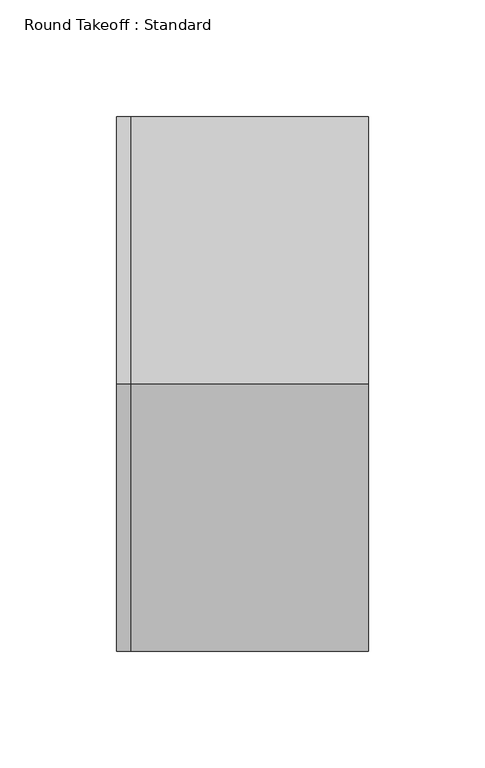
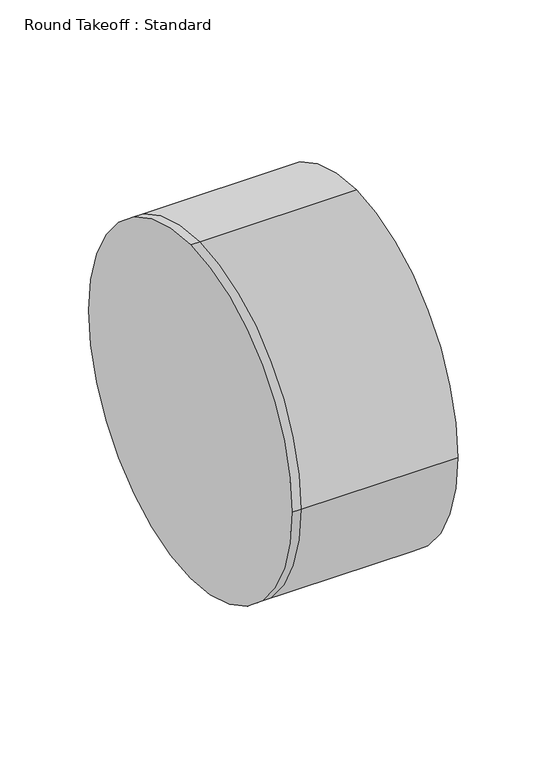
"""IFC4 building model written with IfcOpenShell, lengths in millimetres: duct fitting geometry, Round Takeoff : Standard."""

from ifc_helpers import new_model, si_unit, frame, origin, place, context, project, spatial, circle_curve, source, transform, mapped, element, save
from ifc_brep_helpers import plane_surface, cylinder_surface, advanced_brep


def round_takeoff_standard_bde3aeed(model_context):
    return source(origin(), model_context, "Body", "AdvancedBrep", [
        advanced_brep(
        [(101.6, 0.0, 114.3), (101.6, -114.3, 0.0), (101.6, 0.0, -114.3), (101.6, 114.3, 0.0), (0.0, 114.3, 0.0), (0.0, 0.0, 114.3), (0.0, 0.0, -114.3), (0.0, -114.3, 0.0), (-6.096, 0.0, 114.3), (-6.096, 114.3, 0.0), (-6.096, 0.0, -114.3), (-6.096, -114.3, 0.0)],
        [
            (0, 1, circle_curve(frame((101.6, 0.0, 0.0), z_axis=(1.0, 0.0, 0.0), x_axis=(0.0, 1.0, 0.0)), 114.3)),
            (1, 2, circle_curve(frame((101.6, 0.0, 0.0), z_axis=(1.0, 0.0, 0.0), x_axis=(0.0, 1.0, 0.0)), 114.3)),
            (2, 3, circle_curve(frame((101.6, 0.0, 0.0), z_axis=(1.0, 0.0, 0.0), x_axis=(0.0, 1.0, 0.0)), 114.3)),
            (3, 0, circle_curve(frame((101.6, 0.0, 0.0), z_axis=(1.0, 0.0, 0.0), x_axis=(0.0, 1.0, 0.0)), 114.3)),
            (3, 4),
            (4, 5, circle_curve(frame((0.0, 0.0, 0.0), z_axis=(1.0, 0.0, 0.0), x_axis=(0.0, 1.0, 0.0)), 114.3)),
            (5, 0),
            (2, 6),
            (6, 4, circle_curve(frame((0.0, 0.0, 0.0), z_axis=(1.0, 0.0, 0.0), x_axis=(0.0, 1.0, 0.0)), 114.3)),
            (1, 7),
            (7, 6, circle_curve(frame((0.0, 0.0, 0.0), z_axis=(1.0, 0.0, 0.0), x_axis=(0.0, 1.0, 0.0)), 114.3)),
            (5, 7, circle_curve(frame((0.0, 0.0, 0.0), z_axis=(1.0, 0.0, 0.0), x_axis=(0.0, 1.0, 0.0)), 114.3)),
            (8, 9, circle_curve(frame((-6.096, 0.0, 0.0), z_axis=(-1.0, 0.0, 0.0), x_axis=(0.0, 1.0, 0.0)), 114.3)),
            (9, 10, circle_curve(frame((-6.096, 0.0, 0.0), z_axis=(-1.0, 0.0, 0.0), x_axis=(0.0, 1.0, 0.0)), 114.3)),
            (10, 11, circle_curve(frame((-6.096, 0.0, 0.0), z_axis=(-1.0, 0.0, 0.0), x_axis=(0.0, 1.0, 0.0)), 114.3)),
            (11, 8, circle_curve(frame((-6.096, 0.0, 0.0), z_axis=(-1.0, 0.0, 0.0), x_axis=(0.0, 1.0, 0.0)), 114.3)),
            (8, 5),
            (4, 9),
            (6, 10),
            (7, 11),
        ],
        [
            plane_surface(frame((101.6, 0.0, 0.0), z_axis=(1.0, 0.0, 0.0), x_axis=(0.0, 0.0, 1.0))),
            cylinder_surface(frame((0.0, 0.0, 0.0), z_axis=(-1.0, 0.0, 0.0), x_axis=(0.0, 1.0, 0.0)), 114.3),
            plane_surface(frame((-6.096, 0.0, 0.0), z_axis=(-1.0, 0.0, 0.0), x_axis=(0.0, 0.0, 1.0))),
            cylinder_surface(frame((-6.096, 0.0, 0.0), z_axis=(-1.0, 0.0, 0.0), x_axis=(0.0, 1.0, 0.0)), 114.3),
        ],
        [
            (0, [[1, 2, 3, 4]]),
            (1, [[-4, 5, 6, 7]]),
            (1, [[-3, 8, 9, -5]]),
            (1, [[-2, 10, 11, -8]]),
            (1, [[-1, -7, 12, -10]]),
            (2, [[13, 14, 15, 16]]),
            (3, [[-13, 17, -6, 18]]),
            (3, [[-14, -18, -9, 19]]),
            (3, [[-15, -19, -11, 20]]),
            (3, [[-16, -20, -12, -17]]),
        ],
    ),
    ])


if __name__ == "__main__":
    model = new_model("IFC4")
    model_context = context("Model", 3, world=origin())
    ifc_project = project(units=[si_unit("LENGTHUNIT", "METRE", prefix="MILLI")], contexts=[model_context])
    site = spatial("IfcSite", under=ifc_project)
    building = spatial("IfcBuilding", under=site)
    placement = place(None, origin())
    round_takeoff_standard_shape = round_takeoff_standard_bde3aeed(model_context)
    element("IfcDuctFitting", 1, ObjectType="Round Takeoff : Standard", at=placement, inside=building, context=model_context, shape_type="MappedRepresentation", body=[
        mapped(round_takeoff_standard_shape, transform((0.0, 0.0, 0.0), x_axis=(1.0, 0.0, 0.0), y_axis=(0.0, 1.0, 0.0), z_axis=(0.0, 0.0, 1.0))),
    ])
    save(model, "model.ifc")
